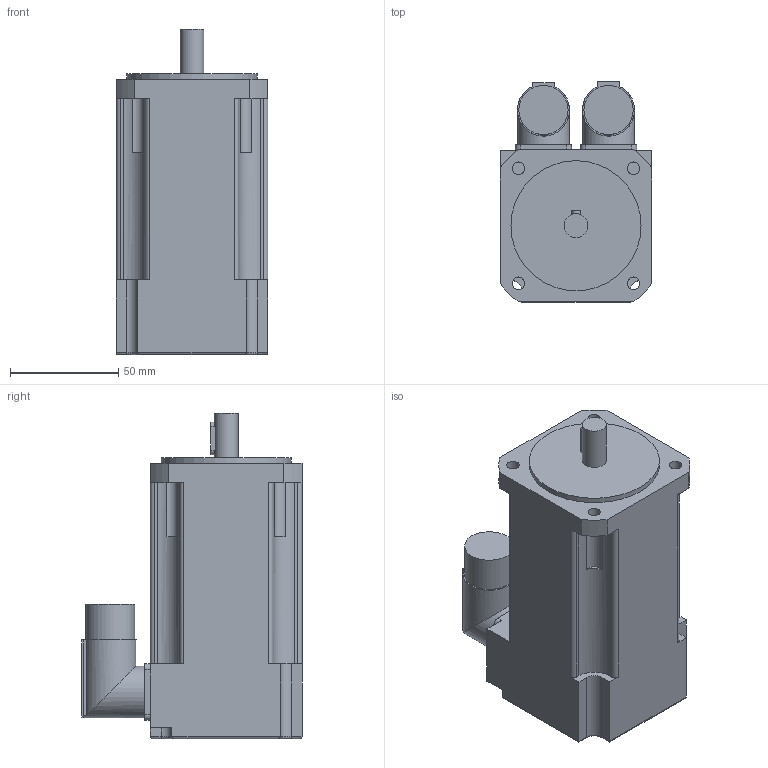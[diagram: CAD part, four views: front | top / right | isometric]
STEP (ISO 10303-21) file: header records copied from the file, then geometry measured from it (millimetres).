
FILE_DESCRIPTION(/* description */ (''),/* implementation_level */ '2;1');
FILE_NAME(/* name */ '\\Lafnas01\disegni\Archivi Lafert\3D\CAD 3D\MODELLI\Assiemi clienti\Serad\Modelli 3D Serad\B36Q\Resolver\Res Without Brake\B36E2Qxx6A052033.ipt.stp',/* time_stamp */ '2015-09-07T10:49:34+02:00',/* author */ ('Pastrello Ylenia'),/* organization */ (''),/* preprocessor_version */ 'ST-DEVELOPER v15.6',/* originating_system */ 'Autodesk Inventor 2015',/* authorisation */ '');
FILE_SCHEMA (('AUTOMOTIVE_DESIGN { 1 0 10303 214 3 1 1 }'));
Length unit declared in the file: millimetre
Products named in the file (1): B36E2Qxx6A052033
Bounding box: 70 x 101.5 x 150 mm (x, y, z)
Volume: 620522.8 mm3; surface area: 54582.6 mm2
Topology: 1 solids, 1 shells, 121 faces, 322 edges, 210 vertices
Faces by surface type: plane 59, cylinder 58, torus 4
Full cylindrical faces by diameter (mm): 5.8 x4, 11 x1, 22.7 x2, 24 x2, 60 x1
Entity records: 3806 total; most frequent: CARTESIAN_POINT 678, DIRECTION 676, ORIENTED_EDGE 624, EDGE_CURVE 312, AXIS2_PLACEMENT_3D 244, VERTEX_POINT 210, LINE 188, VECTOR 188
